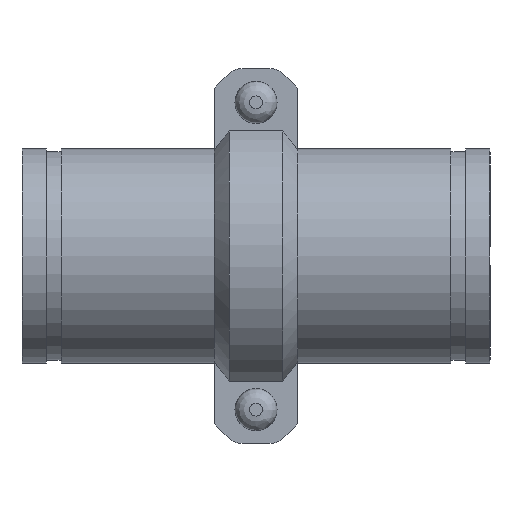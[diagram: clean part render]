
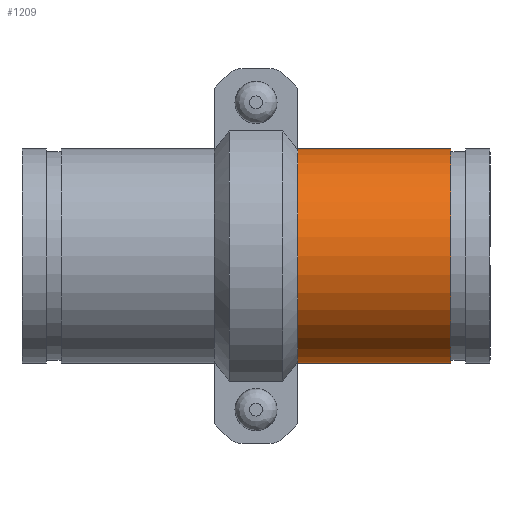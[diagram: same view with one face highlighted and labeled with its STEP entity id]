
A CAD part, front view. The second image highlights one B-rep face of the part: STEP entity #1209.
In plain terms, the highlighted cylindrical face has radius 69.85 mm (diameter 139.7 mm), a full revolution.
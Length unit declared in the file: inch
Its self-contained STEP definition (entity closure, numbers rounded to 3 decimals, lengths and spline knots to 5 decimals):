
#48=LINE('',#1929,#135);
#135=VECTOR('',#1570,2.75);
#222=CYLINDRICAL_SURFACE('',#1395,2.75);
#267=FACE_OUTER_BOUND('',#340,.T.);
#340=EDGE_LOOP('',(#797,#798,#799,#800,#801,#802));
#432=CIRCLE('',#1393,2.75);
#433=CIRCLE('',#1394,2.75);
#434=CIRCLE('',#1396,2.75);
#435=CIRCLE('',#1397,2.75);
#500=VERTEX_POINT('',#1920);
#501=VERTEX_POINT('',#1921);
#502=VERTEX_POINT('',#1925);
#503=VERTEX_POINT('',#1926);
#617=EDGE_CURVE('',#500,#501,#432,.T.);
#618=EDGE_CURVE('',#501,#500,#433,.T.);
#619=EDGE_CURVE('',#502,#503,#434,.T.);
#620=EDGE_CURVE('',#503,#502,#435,.T.);
#621=EDGE_CURVE('',#503,#501,#48,.T.);
#797=ORIENTED_EDGE('',*,*,#619,.F.);
#798=ORIENTED_EDGE('',*,*,#620,.F.);
#799=ORIENTED_EDGE('',*,*,#621,.T.);
#800=ORIENTED_EDGE('',*,*,#618,.T.);
#801=ORIENTED_EDGE('',*,*,#617,.T.);
#802=ORIENTED_EDGE('',*,*,#621,.F.);
#1209=ADVANCED_FACE('',(#267),#222,.T.);
#1393=AXIS2_PLACEMENT_3D('',#1922,#1560,#1561);
#1394=AXIS2_PLACEMENT_3D('',#1923,#1562,#1563);
#1395=AXIS2_PLACEMENT_3D('',#1924,#1564,#1565);
#1396=AXIS2_PLACEMENT_3D('',#1927,#1566,#1567);
#1397=AXIS2_PLACEMENT_3D('',#1928,#1568,#1569);
#1560=DIRECTION('center_axis',(-1.,0.,0.));
#1561=DIRECTION('ref_axis',(0.,0.,1.));
#1562=DIRECTION('center_axis',(-1.,0.,0.));
#1563=DIRECTION('ref_axis',(0.,0.,1.));
#1564=DIRECTION('center_axis',(-1.,0.,0.));
#1565=DIRECTION('ref_axis',(0.,1.,0.));
#1566=DIRECTION('center_axis',(-1.,0.,0.));
#1567=DIRECTION('ref_axis',(0.,0.,1.));
#1568=DIRECTION('center_axis',(-1.,0.,0.));
#1569=DIRECTION('ref_axis',(0.,0.,1.));
#1570=DIRECTION('',(1.,0.,0.));
#1920=CARTESIAN_POINT('',(1.985,2.75,0.));
#1921=CARTESIAN_POINT('',(1.985,-2.75,0.));
#1922=CARTESIAN_POINT('Origin',(1.985,0.,0.));
#1923=CARTESIAN_POINT('Origin',(1.985,0.,0.));
#1924=CARTESIAN_POINT('Origin',(0.,0.,
0.));
#1925=CARTESIAN_POINT('',(-1.985,2.75,0.));
#1926=CARTESIAN_POINT('',(-1.985,-2.75,0.));
#1927=CARTESIAN_POINT('Origin',(-1.985,0.,0.));
#1928=CARTESIAN_POINT('Origin',(-1.985,0.,0.));
#1929=CARTESIAN_POINT('',(0.,-2.75,0.));
